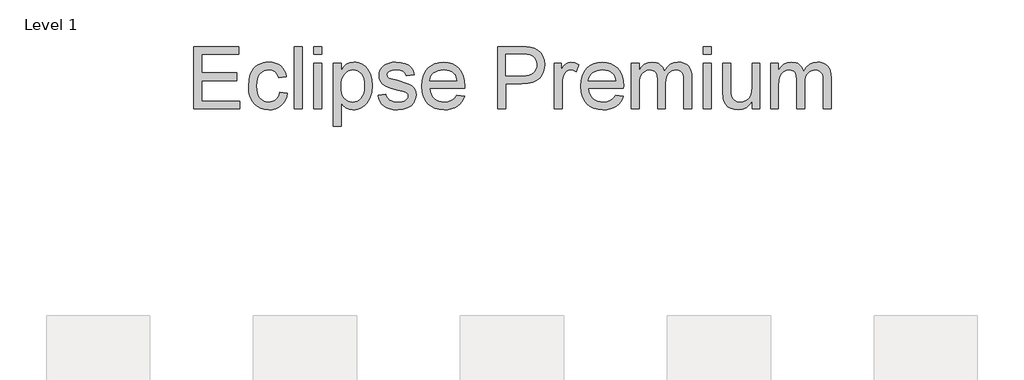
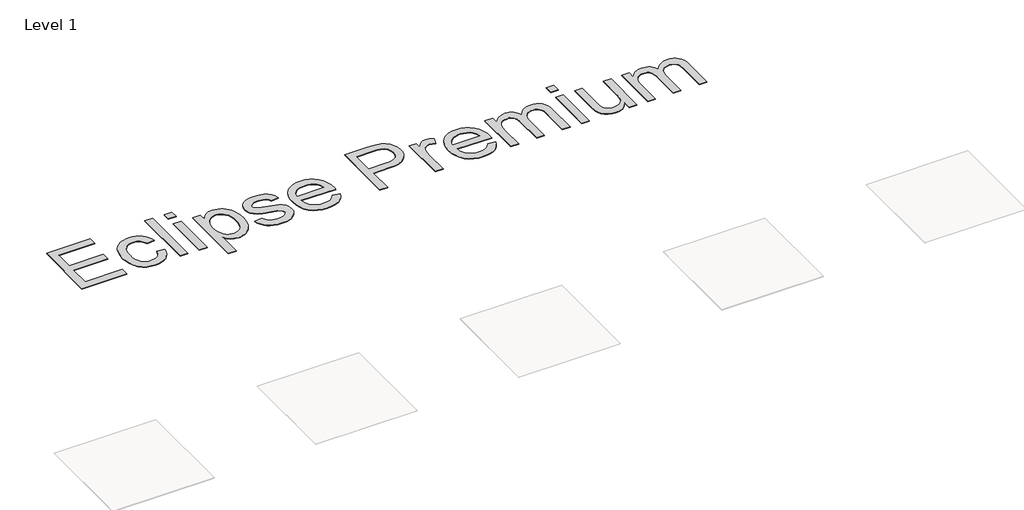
# One storey, part 13 of 13: 1 proxy.
"""IFC4 building model written with IfcOpenShell, lengths in millimetres."""

from ifc_helpers import new_model, si_unit, origin, origin_with_axes, place, context, project, spatial, polyline, outline, extrude, element, save

model = new_model("IFC4")

# Units and contexts
model_context = context("Model", 3, world=origin())
ifc_project = project(units=[si_unit("LENGTHUNIT", "METRE", prefix="MILLI")], contexts=[model_context])

# Site, building, storey
site = spatial("IfcSite", under=ifc_project)
building = spatial("IfcBuilding", under=site)
storey = spatial("IfcBuildingStorey", under=building, Name="Level 1", Elevation=0.0)

# Proxy
placement = place(None, origin())
element("IfcBuildingElementProxy", 1, Name="600mm Arial", ObjectType="600mm Arial", at=placement, inside=storey, context=model_context, shape_type="SweptSolid", body=[
    extrude(outline(polyline([(-1008.8457118, 4020.5816168), (-1008.8457118, 4623.3194777), (-575.6278743, 4623.3194777), (-575.6278743, 4547.9772451), (-933.5034792, 4547.9772451), (-933.5034792, 4369.0394427), (-594.4634324, 4369.0394427), (-594.4634324, 4293.6972101), (-933.5034792, 4293.6972101), (-933.5034792, 4095.9238495), (-566.2100952, 4095.9238495), (-566.2100952, 4020.5816168), (-1008.8457118, 4020.5816168)])), origin_with_axes(), (0.0, 0.0, 1.0), 5.0),
    extrude(outline(polyline([(-180.0811531, 4180.6838611), (-104.7389205, 4171.2660821), (-112.9334919, 4135.7148858), (-125.7449824, 4104.2563766), (-143.1733919, 4076.8905547), (-165.2187205, 4053.61742), (-190.952066, 4035.0439778), (-219.4445265, 4021.7772333), (-250.696102, 4013.8171867), (-284.7067925, 4011.1638378), (-326.9626382, 4014.8656503), (-364.8498851, 4025.9710881), (-398.3685334, 4044.480151), (-427.518583, 4070.392839), (-451.1136145, 4103.2217085), (-467.9672084, 4142.4793159), (-478.0793647, 4188.1656612), (-481.4500835, 4240.2807444), (-475.6927303, 4307.327238), (-468.4960388, 4337.4981601), (-458.4206706, 4365.4341991), (-445.397648, 4390.574335), (-429.357993, 4412.3575476), (-410.3017056, 4430.783837), (-388.2287859, 4445.8532033), (-364.1371138, 4457.5702448), (-339.0245691, 4465.9395602), (-312.8911518, 4470.9611494), (-285.7368621, 4472.6350125), (-252.3101843, 4470.33575), (-222.0748828, 4463.4379626), (-195.0309576, 4451.9416503), (-171.1784088, 4435.846813), (-150.9219064, 4415.5213328), (-134.6661208, 4391.3330916), (-122.4110518, 4363.2820894), (-114.1566995, 4331.3683264), (-189.4989321, 4321.9505473), (-203.1657483, 4354.8208036), (-224.4477217, 4378.3836454), (-252.16763, 4392.5654963), (-285.1482509, 4397.2927799), (-310.7482392, 4394.9659263), (-333.8374329, 4387.9853654), (-354.4158321, 4376.3510973), (-372.4834365, 4360.063122), (-387.1941178, 4338.7443604), (-397.7017473, 4312.0177334), (-404.006325, 4279.8832411), (-406.1078509, 4242.3408835), (-404.0523103, 4204.2329074), (-397.8856883, 4171.7259346), (-387.6079851, 4144.8199651), (-373.2192005, 4123.5149991), (-355.510281, 4107.3235928), (-335.2721727, 4095.7583026), (-312.5048758, 4088.8191284), (-287.2083901, 4086.5060704), (-248.1945045, 4092.2818177), (-231.3225165, 4099.5015019), (-216.207165, 4109.6090597), (-203.2715143, 4122.7148558), (-192.9386288, 4138.9292547), (-185.2085084, 4158.2522565), (-180.0811531, 4180.6838611)])), origin_with_axes(), (0.0, 0.0, 1.0), 5.0),
    extrude(outline(polyline([(-38.8144669, 4020.5816168), (-38.8144669, 4623.3194777), (36.5277657, 4623.3194777), (36.5277657, 4020.5816168), (-38.8144669, 4020.5816168)])), origin_with_axes(), (0.0, 0.0, 1.0), 5.0),
    extrude(outline(polyline([(149.5411146, 4547.9772451), (149.5411146, 4623.3194777), (224.8833472, 4623.3194777), (224.8833472, 4547.9772451), (149.5411146, 4547.9772451)])), origin_with_axes(), (0.0, 0.0, 1.0), 5.0),
    extrude(outline(polyline([(149.5411146, 4020.5816168), (149.5411146, 4463.2172334), (224.8833472, 4463.2172334), (224.8833472, 4020.5816168), (149.5411146, 4020.5816168)])), origin_with_axes(), (0.0, 0.0, 1.0), 5.0),
    extrude(outline(polyline([(337.8966961, 3851.0615935), (337.8966961, 4463.2172334), (413.2389288, 4463.2172334), (413.2389288, 4389.3465288), (437.813446, 4425.7852404), (465.3310193, 4451.8128916), (497.4103293, 4467.4294823), (535.6700568, 4472.6350125), (561.9460283, 4470.8139966), (586.6217131, 4465.350949), (609.6971112, 4456.2458696), (631.1722227, 4443.4987585), (650.5779979, 4427.4407094), (667.4453874, 4408.4028162), (681.7743911, 4386.3850787), (693.5650091, 4361.3874972), (709.3471467, 4305.8741041), (714.6078592, 4245.2839395), (708.666565, 4180.849408), (701.2399472, 4151.1843237), (690.8426823, 4123.2206935), (677.6173246, 4097.689683), (661.7064283, 4075.3224577), (643.1099934, 4056.1190176), (621.82802, 4040.0793626), (598.9043732, 4027.4288205), (575.3829181, 4018.392719), (551.2636548, 4012.9710581), (526.5465833, 4011.1638378), (491.9104934, 4016.001486), (460.9900117, 4030.5144307), (434.5209022, 4052.4218035), (413.2389288, 4079.4427361), (413.2389288, 3851.0615935), (337.8966961, 3851.0615935)]), holes=[polyline([(413.2389288, 4238.367758), (415.2760753, 4202.0578051), (421.387515, 4170.8246237), (431.5732477, 4144.6682138), (445.8332735, 4123.5885755), (462.9995671, 4107.3649795), (481.9041032, 4095.7766967), (502.5468816, 4088.8237269), (524.9279025, 4086.5060704), (547.6308201, 4088.9065004), (568.6506776, 4096.1077905), (587.987475, 4108.1099405), (605.6412122, 4124.9129507), (620.3518935, 4146.7559441), (630.859523, 4173.8780442), (637.1641007, 4206.279251), (639.2656266, 4243.9595643), (637.2146845, 4279.9568175), (631.0618581, 4311.1348166), (620.8071475, 4337.4935616), (606.4505526, 4359.0330524), (589.2428723, 4375.7716832), (570.4349053, 4387.727848), (550.0266516, 4394.9015469), (528.0181113, 4397.2927799), (506.0785488, 4394.7497956), (485.4357703, 4387.1208427), (466.0897759, 4374.4059213), (448.0405655, 4356.6050312), (432.8148494, 4333.9572959), (421.9393379, 4306.7018386), (415.4140311, 4274.8386593), (413.2389288, 4238.367758)])]), origin_with_axes(), (0.0, 0.0, 1.0), 5.0),
    extrude(outline(polyline([(771.1145337, 4152.4305239), (846.4567663, 4161.848303), (851.009306, 4144.6682138), (858.3393547, 4129.6218402), (868.4469125, 4116.7091822), (881.3319794, 4105.9302397), (897.0313436, 4097.4321656), (915.5817932, 4091.3621127), (961.2359488, 4086.5060704), (1006.3382814, 4090.9574425), (1023.8678585, 4096.5216577), (1038.0497094, 4104.3115589), (1056.8116911, 4123.6621519), (1061.5021866, 4134.4962766), (1063.065685, 4146.1029536), (1061.4929895, 4156.2748908), (1056.7749029, 4165.3063937), (1037.9025566, 4179.9480972), (1009.6860075, 4189.513029), (960.353032, 4201.4324057), (891.5958871, 4221.3164275), (846.8982247, 4238.2941816), (818.1850349, 4256.81704), (797.3813081, 4281.336375), (784.7445616, 4310.288688), (780.5323127, 4342.1104806), (783.9168271, 4371.3019169), (794.0703702, 4398.2492731), (810.073237, 4421.8856913), (831.0057225, 4441.1443137), (851.8094493, 4453.2660255), (878.9039583, 4463.4379626), (910.2291101, 4470.33575), (943.7247658, 4472.6350125), (992.7634358, 4468.9377985), (1035.400959, 4457.8461563), (1069.687561, 4440.4453379), (1093.673467, 4417.8205952), (1109.5659692, 4388.2980651), (1119.5723595, 4350.2038845), (1044.2301269, 4340.7861054), (1034.7203773, 4364.4961), (1015.9032133, 4382.3567709), (987.5946937, 4393.5587777), (949.6108777, 4397.2927799), (906.3479551, 4393.7243245), (877.5060067, 4383.0189585), (861.2824107, 4367.5679147), (855.8745454, 4349.7624261), (858.1186255, 4338.1741433), (864.850866, 4327.8366592), (876.3655725, 4318.6028211), (892.9570505, 4311.208393), (957.8514344, 4295.168738), (1068.4367622, 4259.7049137), (1097.6465926, 4242.7455537), (1119.7930887, 4219.5321998), (1133.7542104, 4189.9912756), (1138.4079177, 4154.0492047), (1132.94487, 4116.8931232), (1116.5557271, 4081.9443336), (1089.8658884, 4051.9435569), (1053.5007532, 4029.6315139), (1009.5756429, 4015.7807568), (960.2058792, 4011.1638378), (919.6560863, 4013.3895238), (884.2382472, 4020.066582), (853.9523619, 4031.1950124), (828.7984305, 4046.7748149), (808.2522211, 4066.7324131), (791.7895018, 4090.9942307), (779.4102727, 4119.5602676), (771.1145337, 4152.4305239)])), origin_with_axes(), (0.0, 0.0, 1.0), 5.0),
    extrude(outline(polyline([(1533.0717221, 4152.4305239), (1606.9424267, 4143.0127448), (1595.6162598, 4113.4258354), (1580.3261644, 4087.352199), (1561.0721404, 4064.7918356), (1537.854188, 4045.7447453), (1510.9114304, 4030.6155983), (1480.4829909, 4019.8090647), (1446.5688694, 4013.3251445), (1409.1690661, 4011.1638378), (1362.4204616, 4014.8932415), (1320.7670227, 4026.0814527), (1284.2087494, 4044.7284713), (1252.7456418, 4070.8342974), (1227.4445575, 4103.672364), (1209.3723545, 4142.5161041), (1198.5290327, 4187.3655179), (1194.9145921, 4238.2206052), (1198.5658209, 4290.8001393), (1209.5195073, 4337.1440737), (1227.7756513, 4377.2524082), (1253.3342529, 4411.1251429), (1284.7145871, 4438.0357109), (1320.4359289, 4457.2575451), (1360.4982781, 4468.7906457), (1404.901635, 4472.6350125), (1447.8748505, 4468.7998427), (1486.7369848, 4457.2943333), (1521.4880378, 4438.1184843), (1552.1280094, 4411.2722957), (1577.1393866, 4377.4731374), (1595.004656, 4337.4383793), (1605.7238176, 4291.1680213), (1609.2968715, 4238.6620636), (1608.8554131, 4218.3549774), (1270.2568247, 4218.3549774), (1274.6208249, 4188.2898214), (1283.2982415, 4161.9586676), (1296.2890744, 4139.361516), (1313.5933238, 4120.4983667), (1334.2544963, 4105.6267371), (1357.3160989, 4095.0041445), (1382.7781315, 4088.6305889), (1410.6405941, 4086.5060704), (1450.7397316, 4090.4424077), (1484.5112987, 4102.2514198), (1511.9552956, 4122.6688705), (1533.0717221, 4152.4305239)]), holes=[polyline([(1270.2568247, 4293.6972101), (1533.9546389, 4293.6972101), (1523.7643076, 4333.5020419), (1514.9995191, 4349.1554208), (1503.7883153, 4361.9761084), (1483.2421058, 4377.4271522), (1459.863205, 4388.463612), (1433.6516129, 4395.0854879), (1404.6073294, 4397.2927799), (1378.1152272, 4395.5315449), (1353.8212199, 4390.2478397), (1331.7253076, 4381.4416644), (1311.8274902, 4369.1130191), (1295.1302461, 4353.8321207), (1282.6360539, 4336.1691864), (1274.3449134, 4316.1242162), (1270.2568247, 4293.6972101)])]), origin_with_axes(), (0.0, 0.0, 1.0), 5.0),
    extrude(outline(polyline([(1929.5013601, 4020.5816168), (1929.5013601, 4623.3194777), (2152.8793076, 4623.3194777), (2204.8978217, 4621.884738), (2242.93682, 4617.5805186), (2283.0911397, 4606.8567585), (2316.145337, 4589.4007578), (2342.7615994, 4564.4215703), (2363.6021144, 4531.1282497), (2377.0665954, 4491.8568468), (2381.5547558, 4448.943412), (2378.5243278, 4411.9436804), (2369.433044, 4377.9053988), (2354.2809043, 4346.8285672), (2333.0679088, 4318.7131857), (2303.9454503, 4295.4078613), (2265.064922, 4278.7612011), (2216.4263237, 4268.7732049), (2158.0296555, 4265.4438728), (2004.8435927, 4265.4438728), (2004.8435927, 4020.5816168), (1929.5013601, 4020.5816168)]), holes=[polyline([(2004.8435927, 4340.7861054), (2162.4442394, 4340.7861054), (2198.680616, 4342.5151508), (2229.2516097, 4347.702287), (2254.1572208, 4356.3475138), (2273.3974492, 4368.4508315), (2287.754044, 4383.6903431), (2298.0087546, 4401.744152), (2304.161581, 4422.6122582), (2306.2125231, 4446.2946617), (2301.3748749, 4480.1398052), (2286.8619302, 4508.687448), (2264.4763108, 4530.1717566), (2236.0206385, 4542.8268972), (2206.9579608, 4546.6896581), (2160.6784058, 4547.9772451), (2004.8435927, 4547.9772451), (2004.8435927, 4340.7861054)])]), origin_with_axes(), (0.0, 0.0, 1.0), 5.0),
    extrude(outline(polyline([(2475.7325465, 4020.5816168), (2475.7325465, 4463.2172334), (2541.6570001, 4463.2172334), (2541.6570001, 4397.7342383), (2566.0107881, 4435.6996602), (2588.4515898, 4458.0668855), (2610.9659679, 4468.9929808), (2635.5404852, 4472.6350125), (2673.0644487, 4466.822477), (2711.1770234, 4449.3848704), (2686.013895, 4381.8417361), (2659.5263913, 4393.430019), (2633.0388877, 4397.2927799), (2610.5429037, 4393.5771718), (2590.4381526, 4382.4303473), (2574.1961625, 4364.6984351), (2563.2884614, 4341.2275638), (2554.1281997, 4299.1418636), (2551.0747791, 4253.2301906), (2551.0747791, 4020.5816168), (2475.7325465, 4020.5816168)])), origin_with_axes(), (0.0, 0.0, 1.0), 5.0),
    extrude(outline(polyline([(3068.1697116, 4152.4305239), (3142.0404162, 4143.0127448), (3130.7142493, 4113.4258354), (3115.4241538, 4087.352199), (3096.1701299, 4064.7918356), (3072.9521775, 4045.7447453), (3046.0094199, 4030.6155983), (3015.5809803, 4019.8090647), (2981.6668589, 4013.3251445), (2944.2670556, 4011.1638378), (2897.518451, 4014.8932415), (2855.8650121, 4026.0814527), (2819.3067389, 4044.7284713), (2787.8436312, 4070.8342974), (2762.542547, 4103.672364), (2744.470344, 4142.5161041), (2733.6270222, 4187.3655179), (2730.0125816, 4238.2206052), (2733.6638104, 4290.8001393), (2744.6174968, 4337.1440737), (2762.8736408, 4377.2524082), (2788.4322424, 4411.1251429), (2819.8125766, 4438.0357109), (2855.5339183, 4457.2575451), (2895.5962676, 4468.7906457), (2939.9996244, 4472.6350125), (2982.97284, 4468.7998427), (3021.8349743, 4457.2943333), (3056.5860272, 4438.1184843), (3087.2259989, 4411.2722957), (3112.237376, 4377.4731374), (3130.1026454, 4337.4383793), (3140.8218071, 4291.1680213), (3144.394861, 4238.6620636), (3143.9534026, 4218.3549774), (2805.3548142, 4218.3549774), (2809.7188144, 4188.2898214), (2818.3962309, 4161.9586676), (2831.3870639, 4139.361516), (2848.6913132, 4120.4983667), (2869.3524858, 4105.6267371), (2892.4140884, 4095.0041445), (2917.8761209, 4088.6305889), (2945.7385836, 4086.5060704), (2985.837721, 4090.4424077), (3019.6092882, 4102.2514198), (3047.053285, 4122.6688705), (3068.1697116, 4152.4305239)]), holes=[polyline([(2805.3548142, 4293.6972101), (3069.0526283, 4293.6972101), (3058.8622971, 4333.5020419), (3050.0975085, 4349.1554208), (3038.8863047, 4361.9761084), (3018.3400953, 4377.4271522), (2994.9611945, 4388.463612), (2968.7496024, 4395.0854879), (2939.7053188, 4397.2927799), (2913.2132167, 4395.5315449), (2888.9192094, 4390.2478397), (2866.8232971, 4381.4416644), (2846.9254797, 4369.1130191), (2830.2282356, 4353.8321207), (2817.7340433, 4336.1691864), (2809.4429029, 4316.1242162), (2805.3548142, 4293.6972101)])]), origin_with_axes(), (0.0, 0.0, 1.0), 5.0),
    extrude(outline(polyline([(3219.7370936, 4020.5816168), (3219.7370936, 4463.2172334), (3295.0793262, 4463.2172334), (3295.0793262, 4390.3765984), (3317.7408571, 4423.8354659), (3346.8771111, 4450.047058), (3381.4948068, 4466.9880239), (3420.6006629, 4472.6350125), (3462.5024222, 4466.8776593), (3480.3355019, 4459.6809678), (3496.0900483, 4449.6055996), (3521.1796004, 4421.9592677), (3537.5871374, 4385.0790977), (3565.0495283, 4423.3848104), (3596.3746802, 4450.7460338), (3631.5625931, 4467.1627678), (3670.6132669, 4472.6350125), (3700.7749919, 4470.3587427), (3727.2487, 4463.5299331), (3750.0343911, 4452.1485839), (3769.1320652, 4436.214695), (3784.2290225, 4415.5443254), (3795.0125635, 4389.9535341), (3801.4826881, 4359.4423211), (3803.6393963, 4324.0106865), (3803.6393963, 4020.5816168), (3728.2971637, 4020.5816168), (3728.2971637, 4291.6370709), (3726.5497242, 4329.2162167), (3721.3074058, 4354.5448921), (3711.4849565, 4371.8905281), (3695.9971245, 4385.5205561), (3676.0763145, 4394.3497239), (3652.9549311, 4397.2927799), (3631.6039798, 4395.4073847), (3612.1384237, 4389.751199), (3594.5582629, 4380.3242229), (3578.8634973, 4367.1264563), (3565.9554377, 4349.7716232), (3556.7353952, 4327.8734474), (3551.2033697, 4301.431929), (3549.3593612, 4270.447068), (3549.3593612, 4020.5816168), (3474.0171286, 4020.5816168), (3474.0171286, 4300.0247804), (3469.657727, 4342.6255154), (3464.2084749, 4359.3457521), (3456.5795221, 4373.0125682), (3446.4673657, 4383.6351608), (3433.5685033, 4391.222727), (3417.8829347, 4395.7752667), (3399.41066, 4397.2927799), (3370.3847706, 4393.246078), (3343.6397495, 4381.1059721), (3321.5668298, 4361.166768), (3306.5572444, 4333.7227711), (3297.9488057, 4295.6469846), (3295.0793262, 4243.8124115), (3295.0793262, 4020.5816168), (3219.7370936, 4020.5816168)])), origin_with_axes(), (0.0, 0.0, 1.0), 5.0),
    extrude(outline(polyline([(3916.6527452, 4547.9772451), (3916.6527452, 4623.3194777), (3991.9949778, 4623.3194777), (3991.9949778, 4547.9772451), (3916.6527452, 4547.9772451)])), origin_with_axes(), (0.0, 0.0, 1.0), 5.0),
    extrude(outline(polyline([(3916.6527452, 4020.5816168), (3916.6527452, 4463.2172334), (3991.9949778, 4463.2172334), (3991.9949778, 4020.5816168), (3916.6527452, 4020.5816168)])), origin_with_axes(), (0.0, 0.0, 1.0), 5.0),
    extrude(outline(polyline([(4387.5416991, 4020.5816168), (4387.5416991, 4096.6596134), (4360.2816432, 4059.2552116), (4328.533427, 4032.5377817), (4292.2970505, 4016.5073237), (4251.5725136, 4011.1638378), (4214.8762846, 4014.9162341), (4180.7184414, 4026.1734232), (4152.0604339, 4043.0959949), (4131.8637124, 4063.8445395), (4118.2704727, 4089.0444561), (4109.4229107, 4119.3211443), (4105.0083268, 4189.3658762), (4105.0083268, 4463.2172334), (4180.3505594, 4463.2172334), (4180.3505594, 4224.8297006), (4181.4909936, 4177.152194), (4184.9122961, 4148.01594), (4195.8935737, 4122.392959), (4214.7107377, 4102.9136074), (4240.1129895, 4090.6079546), (4270.8495302, 4086.5060704), (4303.3519045, 4090.6999251), (4333.7573514, 4103.2814894), (4358.8285093, 4123.0919348), (4375.3280168, 4148.9724332), (4384.4882785, 4184.4178634), (4387.5416991, 4232.9231045), (4387.5416991, 4463.2172334), (4462.8839317, 4463.2172334), (4462.8839317, 4020.5816168), (4387.5416991, 4020.5816168)])), origin_with_axes(), (0.0, 0.0, 1.0), 5.0),
    extrude(outline(polyline([(4566.4795015, 4020.5816168), (4566.4795015, 4463.2172334), (4641.8217341, 4463.2172334), (4641.8217341, 4390.3765984), (4664.483265, 4423.8354659), (4693.619519, 4450.047058), (4728.2372148, 4466.9880239), (4767.3430709, 4472.6350125), (4809.2448301, 4466.8776593), (4827.0779098, 4459.6809678), (4842.8324563, 4449.6055996), (4867.9220084, 4421.9592677), (4884.3295453, 4385.0790977), (4911.7919363, 4423.3848104), (4943.1170882, 4450.7460338), (4978.305001, 4467.1627678), (5017.3556748, 4472.6350125), (5047.5173999, 4470.3587427), (5073.991108, 4463.5299331), (5096.776799, 4452.1485839), (5115.8744731, 4436.214695), (5130.9714305, 4415.5443254), (5141.7549715, 4389.9535341), (5148.2250961, 4359.4423211), (5150.3818043, 4324.0106865), (5150.3818043, 4020.5816168), (5075.0395716, 4020.5816168), (5075.0395716, 4291.6370709), (5073.2921322, 4329.2162167), (5068.0498137, 4354.5448921), (5058.2273645, 4371.8905281), (5042.7395325, 4385.5205561), (5022.8187224, 4394.3497239), (4999.697339, 4397.2927799), (4978.3463877, 4395.4073847), (4958.8808317, 4389.751199), (4941.3006708, 4380.3242229), (4925.6059052, 4367.1264563), (4912.6978457, 4349.7716232), (4903.4778032, 4327.8734474), (4897.9457777, 4301.431929), (4896.1017692, 4270.447068), (4896.1017692, 4020.5816168), (4820.7595366, 4020.5816168), (4820.7595366, 4300.0247804), (4816.4001349, 4342.6255154), (4810.9508829, 4359.3457521), (4803.32193, 4373.0125682), (4793.2097737, 4383.6351608), (4780.3109112, 4391.222727), (4764.6253426, 4395.7752667), (4746.153068, 4397.2927799), (4717.1271785, 4393.246078), (4690.3821575, 4381.1059721), (4668.3092378, 4361.166768), (4653.2996524, 4333.7227711), (4644.6912137, 4295.6469846), (4641.8217341, 4243.8124115), (4641.8217341, 4020.5816168), (4566.4795015, 4020.5816168)])), origin_with_axes(), (0.0, 0.0, 1.0), 5.0),
])

save(model, "model.ifc")
